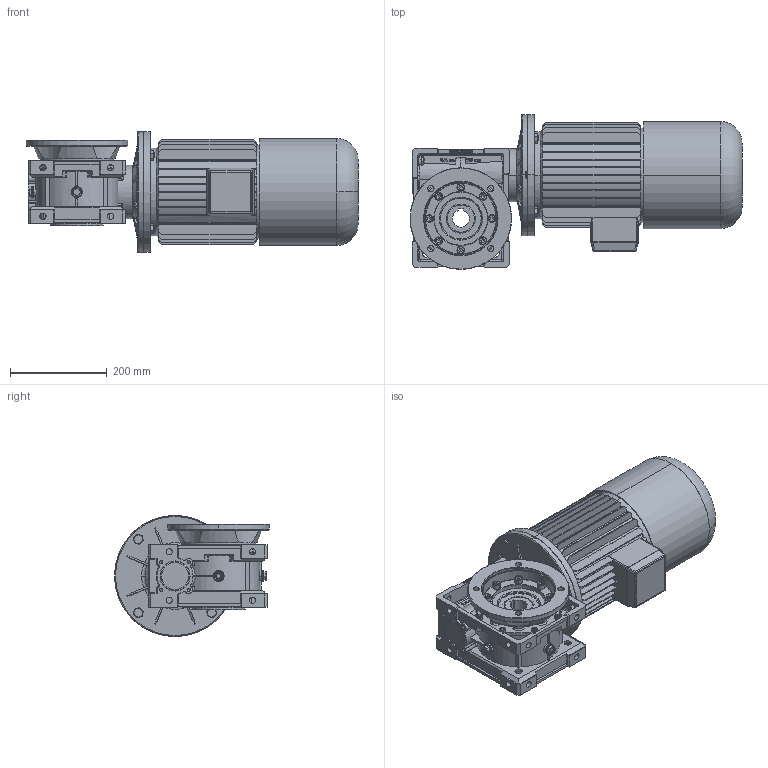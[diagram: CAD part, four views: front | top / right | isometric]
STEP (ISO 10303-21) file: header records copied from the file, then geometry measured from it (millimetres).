
FILE_DESCRIPTION((''),'2;1');
FILE_NAME('D:\_Assiemi MV\_File Sito\90\STP\MVFU90_B5-112BRAKE.stp','2005-07-27T15:36:44',('tech2'),(''),'Autodesk Inventor 9','Autodesk Inventor 9','');
FILE_SCHEMA(('AUTOMOTIVE_DESIGN { 1 0 10303 214 1 1 1 1 }'));
Length unit declared in the file: millimetre
Products named in the file (19): MVFU90_B5-112BRAKE; 4009001-A0; 4009004-A0; TCCE-8X20-ribassata; 4009008-A0; UNI-ISO 6194-1 (4) Tipo4 60 x  85 x  8; Capp-62-7; Guarnizione-tappo-3-8-gas; Tappo-3-8-gas-nero; Paraolio-40-68-7; motori B5 brake 112; FM-90-110-D=250; UNI 5739  (Filetto regolare) M12 x 30; UNI 5589  (Filetto regolare) M12; UNI 8836 13 x 24; FU_MV90; UNI 5931  (Filetto regolare) M 10 x  25
Assembly tree (46 placements, depth 3):
  MVFU90_B5-112BRAKE
    4009001-A0
    4009004-A0
    TCCE-8X20-ribassata  x8
    4009008-A0
    UNI-ISO 6194-1 (4) Tipo4 60 x  85 x  8  x2
    Capp-62-7
    Guarnizione-tappo-3-8-gas  x3
    Tappo-3-8-gas-nero  x3
    Paraolio-40-68-7
    motori B5 brake 112
    FM-90-110-D=250
      FM-90-110-D=250
      UNI 5739  (Filetto regolare) M12 x 30  x4
      UNI 5589  (Filetto regolare) M12  x4
      UNI 8836 13 x 24  x4
    FU_MV90
      FU_MV90
      UNI 5931  (Filetto regolare) M 10 x  25  x8
Bounding box: 686 x 320 x 250 mm (x, y, z)
Volume: 13310380.8 mm3; surface area: 1628890 mm2
Topology: 45 solids, 48 shells, 4373 faces, 11185 edges, 7046 vertices
Faces by surface type: plane 1689, cylinder 1292, bspline 1029, cone 263, torus 96, sphere 4
Entity records: 139153 total; most frequent: CARTESIAN_POINT 49694, ORIENTED_EDGE 19380, DIRECTION 17613, EDGE_CURVE 9690, AXIS2_PLACEMENT_3D 6252, VERTEX_POINT 6202, VECTOR 5109, LINE 5109
